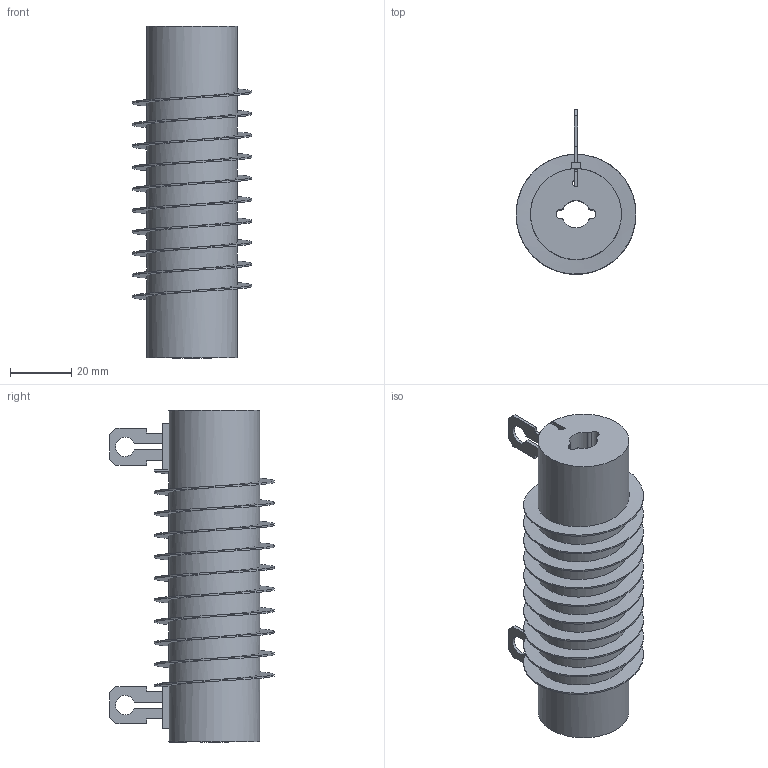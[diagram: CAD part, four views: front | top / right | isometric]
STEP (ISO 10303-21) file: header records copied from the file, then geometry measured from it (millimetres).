
FILE_DESCRIPTION(/* description */ (''),/* implementation_level */ '2;1');
FILE_NAME(/* name */ 'C:\_Vault\Dati\CATALOGO\RCPO-RSPO\RCPO-RSPO 152-420\CPO0155.stp',/* time_stamp */ '2014-01-22T16:51:44+01:00',/* author */ ('stefano'),/* organization */ (''),/* preprocessor_version */ 'ST-DEVELOPER v15.2',/* originating_system */ 'Autodesk Inventor 2014',/* authorisation */ '');
FILE_SCHEMA (('AUTOMOTIVE_DESIGN { 1 0 10303 214 3 1 1 }'));
Length unit declared in the file: millimetre
Products named in the file (1): CPO0155
Bounding box: 39 x 53.5 x 108 mm (x, y, z)
Volume: 68668.4 mm3; surface area: 27781.2 mm2
Topology: 1 solids, 1 shells, 94 faces, 285 edges, 189 vertices
Faces by surface type: plane 67, cylinder 25, bspline 2
Full cylindrical faces by diameter (mm): 29.6 x10
Entity records: 4817 total; most frequent: CARTESIAN_POINT 2313, ORIENTED_EDGE 510, DIRECTION 474, EDGE_CURVE 254, LINE 186, VECTOR 186, VERTEX_POINT 169, AXIS2_PLACEMENT_3D 144
